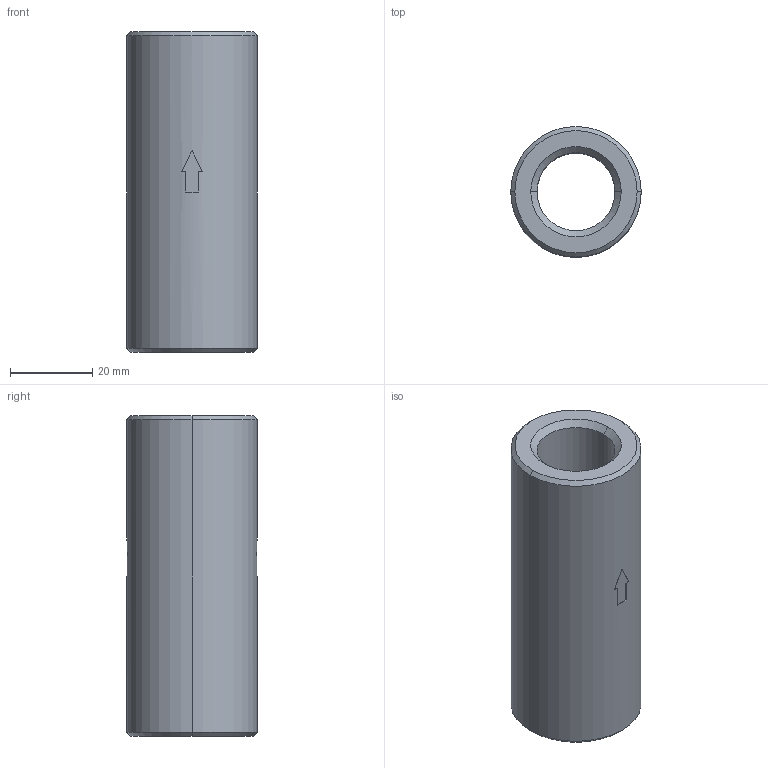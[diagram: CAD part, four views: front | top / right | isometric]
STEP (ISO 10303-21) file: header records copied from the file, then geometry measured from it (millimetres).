
FILE_DESCRIPTION (( 'STEP AP214' ), '1' );
FILE_NAME ('VRF12001.STEP', '2025-06-03T00:44:21', ( '' ), ( '' ), 'SwSTEP 2.0', 'SolidWorks 2023', '' );
FILE_SCHEMA (( 'AUTOMOTIVE_DESIGN' ));
Length unit declared in the file: millimetre
Products named in the file (1): VRF12001
Bounding box: 31.75 x 31.75 x 78 mm (x, y, z)
Surface area: 10972.5 mm2 (no closed solid volume)
Topology: 0 solids, 1 shells, 32 faces, 76 edges, 48 vertices
Faces by surface type: plane 18, cone 8, cylinder 6
Entity records: 934 total; most frequent: CARTESIAN_POINT 169, DIRECTION 164, ORIENTED_EDGE 148, EDGE_CURVE 76, AXIS2_PLACEMENT_3D 59, VERTEX_POINT 48, VECTOR 46, LINE 46
